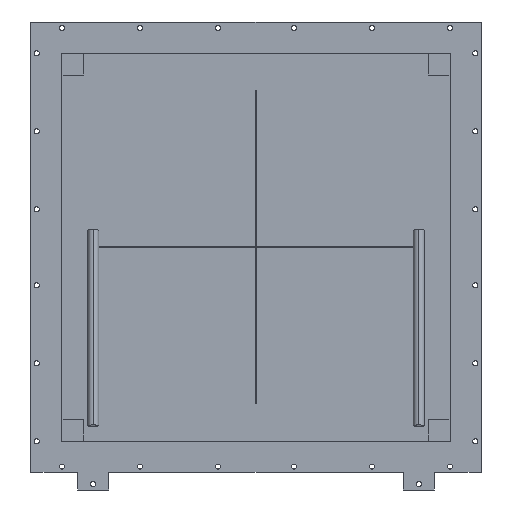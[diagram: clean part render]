
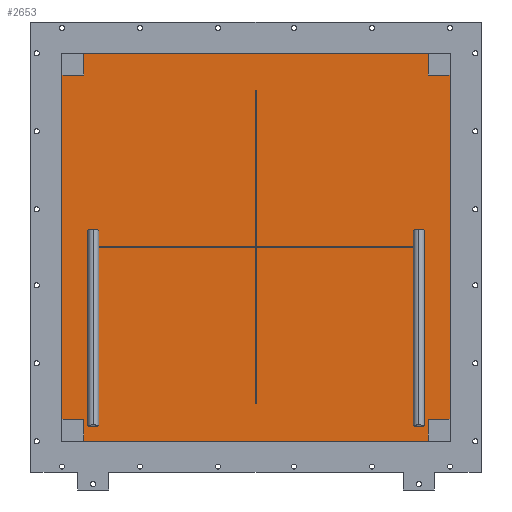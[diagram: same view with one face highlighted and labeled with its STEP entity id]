
A CAD part, front view. The second image highlights one B-rep face of the part: STEP entity #2653.
In plain terms, the highlighted planar face has unit normal (0, -1, 0).
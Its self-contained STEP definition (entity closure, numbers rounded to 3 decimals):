
#161=DIRECTION('',(0.,0.,-1.));
#162=VECTOR('',#161,1036.);
#163=CARTESIAN_POINT('',(518.,77.,518.));
#164=LINE('',#163,#162);
#169=DIRECTION('',(0.,0.,-1.));
#170=VECTOR('',#169,2.);
#171=CARTESIAN_POINT('',(-401.,77.,1.));
#172=LINE('',#171,#170);
#173=DIRECTION('',(1.,0.,0.));
#174=VECTOR('',#173,400.);
#175=CARTESIAN_POINT('',(-401.,77.,-1.));
#176=LINE('',#175,#174);
#177=DIRECTION('',(0.,0.,-1.));
#178=VECTOR('',#177,400.);
#179=CARTESIAN_POINT('',(-1.,77.,-1.));
#180=LINE('',#179,#178);
#181=DIRECTION('',(1.,0.,0.));
#182=VECTOR('',#181,2.);
#183=CARTESIAN_POINT('',(-1.,77.,-401.));
#184=LINE('',#183,#182);
#185=DIRECTION('',(0.,0.,1.));
#186=VECTOR('',#185,400.);
#187=CARTESIAN_POINT('',(1.,77.,-401.));
#188=LINE('',#187,#186);
#189=DIRECTION('',(1.,0.,0.));
#190=VECTOR('',#189,400.);
#191=CARTESIAN_POINT('',(1.,77.,-1.));
#192=LINE('',#191,#190);
#193=DIRECTION('',(0.,0.,1.));
#194=VECTOR('',#193,2.);
#195=CARTESIAN_POINT('',(401.,77.,-1.));
#196=LINE('',#195,#194);
#197=DIRECTION('',(-1.,0.,0.));
#198=VECTOR('',#197,400.);
#199=CARTESIAN_POINT('',(401.,77.,1.));
#200=LINE('',#199,#198);
#201=DIRECTION('',(0.,0.,1.));
#202=VECTOR('',#201,400.);
#203=CARTESIAN_POINT('',(1.,77.,1.));
#204=LINE('',#203,#202);
#205=DIRECTION('',(-1.,0.,0.));
#206=VECTOR('',#205,2.);
#207=CARTESIAN_POINT('',(1.,77.,401.));
#208=LINE('',#207,#206);
#209=DIRECTION('',(0.,0.,-1.));
#210=VECTOR('',#209,400.);
#211=CARTESIAN_POINT('',(-1.,77.,401.));
#212=LINE('',#211,#210);
#213=DIRECTION('',(-1.,0.,0.));
#214=VECTOR('',#213,400.);
#215=CARTESIAN_POINT('',(-1.,77.,1.));
#216=LINE('',#215,#214);
#217=DIRECTION('',(-1.,0.,0.));
#218=VECTOR('',#217,1036.);
#219=CARTESIAN_POINT('',(518.,77.,-518.));
#220=LINE('',#219,#218);
#225=DIRECTION('',(0.,0.,1.));
#226=VECTOR('',#225,1036.);
#227=CARTESIAN_POINT('',(-518.,77.,-518.));
#228=LINE('',#227,#226);
#233=DIRECTION('',(1.,0.,0.));
#234=VECTOR('',#233,1036.);
#235=CARTESIAN_POINT('',(-518.,77.,518.));
#236=LINE('',#235,#234);
#2045=CARTESIAN_POINT('',(518.,77.,518.));
#2046=CARTESIAN_POINT('',(518.,77.,-518.));
#2047=VERTEX_POINT('',#2045);
#2048=VERTEX_POINT('',#2046);
#2049=CARTESIAN_POINT('',(-518.,77.,-518.));
#2050=VERTEX_POINT('',#2049);
#2051=CARTESIAN_POINT('',(-518.,77.,518.));
#2052=VERTEX_POINT('',#2051);
#2405=CARTESIAN_POINT('',(-401.,77.,1.));
#2406=CARTESIAN_POINT('',(-401.,77.,-1.));
#2407=VERTEX_POINT('',#2405);
#2408=VERTEX_POINT('',#2406);
#2409=CARTESIAN_POINT('',(-1.,77.,-1.));
#2410=VERTEX_POINT('',#2409);
#2411=CARTESIAN_POINT('',(-1.,77.,-401.));
#2412=VERTEX_POINT('',#2411);
#2413=CARTESIAN_POINT('',(1.,77.,-401.));
#2414=VERTEX_POINT('',#2413);
#2415=CARTESIAN_POINT('',(1.,77.,-1.));
#2416=VERTEX_POINT('',#2415);
#2417=CARTESIAN_POINT('',(401.,77.,-1.));
#2418=VERTEX_POINT('',#2417);
#2419=CARTESIAN_POINT('',(401.,77.,1.));
#2420=VERTEX_POINT('',#2419);
#2421=CARTESIAN_POINT('',(1.,77.,1.));
#2422=VERTEX_POINT('',#2421);
#2423=CARTESIAN_POINT('',(1.,77.,401.));
#2424=VERTEX_POINT('',#2423);
#2425=CARTESIAN_POINT('',(-1.,77.,401.));
#2426=VERTEX_POINT('',#2425);
#2427=CARTESIAN_POINT('',(-1.,77.,1.));
#2428=VERTEX_POINT('',#2427);
#2613=CARTESIAN_POINT('',(0.,77.,0.));
#2614=DIRECTION('',(0.,1.,0.));
#2615=DIRECTION('',(0.,0.,-1.));
#2616=AXIS2_PLACEMENT_3D('',#2613,#2614,#2615);
#2617=PLANE('',#2616);
#2618=ORIENTED_EDGE('',*,*,#2603,.T.);
#2620=ORIENTED_EDGE('',*,*,#2619,.T.);
#2622=ORIENTED_EDGE('',*,*,#2621,.T.);
#2624=ORIENTED_EDGE('',*,*,#2623,.T.);
#2625=EDGE_LOOP('',(#2618,#2620,#2622,#2624));
#2626=FACE_OUTER_BOUND('',#2625,.F.);
#2628=ORIENTED_EDGE('',*,*,#2627,.T.);
#2630=ORIENTED_EDGE('',*,*,#2629,.T.);
#2632=ORIENTED_EDGE('',*,*,#2631,.T.);
#2634=ORIENTED_EDGE('',*,*,#2633,.T.);
#2636=ORIENTED_EDGE('',*,*,#2635,.T.);
#2638=ORIENTED_EDGE('',*,*,#2637,.T.);
#2640=ORIENTED_EDGE('',*,*,#2639,.T.);
#2642=ORIENTED_EDGE('',*,*,#2641,.T.);
#2644=ORIENTED_EDGE('',*,*,#2643,.T.);
#2646=ORIENTED_EDGE('',*,*,#2645,.T.);
#2648=ORIENTED_EDGE('',*,*,#2647,.T.);
#2650=ORIENTED_EDGE('',*,*,#2649,.T.);
#2651=EDGE_LOOP('',(#2628,#2630,#2632,#2634,#2636,#2638,#2640,#2642,#2644,#2646,
#2648,#2650));
#2652=FACE_BOUND('',#2651,.F.);
#2603=EDGE_CURVE('',#2047,#2048,#164,.T.);
#2619=EDGE_CURVE('',#2048,#2050,#220,.T.);
#2621=EDGE_CURVE('',#2050,#2052,#228,.T.);
#2623=EDGE_CURVE('',#2052,#2047,#236,.T.);
#2627=EDGE_CURVE('',#2407,#2408,#172,.T.);
#2629=EDGE_CURVE('',#2408,#2410,#176,.T.);
#2631=EDGE_CURVE('',#2410,#2412,#180,.T.);
#2633=EDGE_CURVE('',#2412,#2414,#184,.T.);
#2635=EDGE_CURVE('',#2414,#2416,#188,.T.);
#2637=EDGE_CURVE('',#2416,#2418,#192,.T.);
#2639=EDGE_CURVE('',#2418,#2420,#196,.T.);
#2641=EDGE_CURVE('',#2420,#2422,#200,.T.);
#2643=EDGE_CURVE('',#2422,#2424,#204,.T.);
#2645=EDGE_CURVE('',#2424,#2426,#208,.T.);
#2647=EDGE_CURVE('',#2426,#2428,#212,.T.);
#2649=EDGE_CURVE('',#2428,#2407,#216,.T.);
#2653=ADVANCED_FACE('',(#2626,#2652),#2617,.F.);
